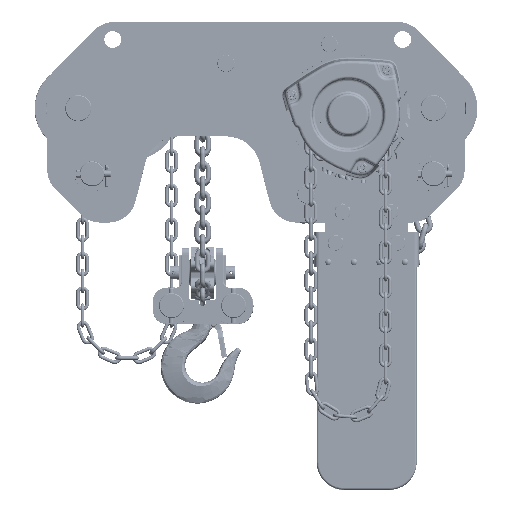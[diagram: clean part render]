
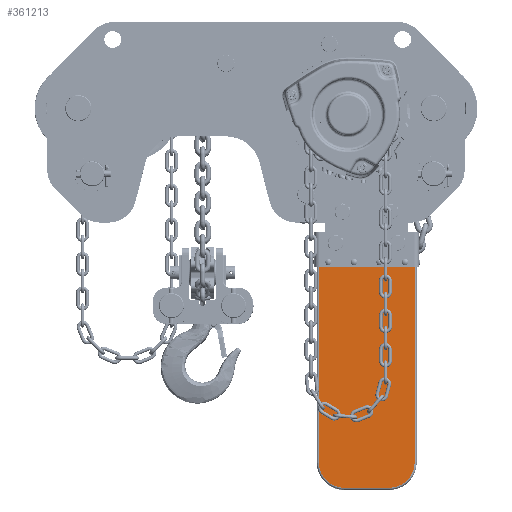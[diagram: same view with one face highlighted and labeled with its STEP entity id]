
A CAD part, top view. The second image highlights one B-rep face of the part: STEP entity #361213.
In plain terms, the highlighted planar face has unit normal (0, 0, 1) as drawn and (-1, 0, 0) by its records, which use the part's own axes.
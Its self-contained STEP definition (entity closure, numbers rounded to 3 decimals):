
#13480 = VERTEX_POINT ( 'NONE', #292649 ) ;
#29026 = ORIENTED_EDGE ( 'NONE', *, *, #163372, .T. ) ;
#50716 = LINE ( 'NONE', #90184, #457541 ) ;
#54205 = LINE ( 'NONE', #228447, #314457 ) ;
#58680 = EDGE_CURVE ( 'NONE', #260573, #13480, #222928, .T. ) ;
#87692 = CARTESIAN_POINT ( 'NONE',  ( -72.5, -340., -72.5 ) ) ;
#90184 = CARTESIAN_POINT ( 'NONE',  ( -72.5, -340., -69.5 ) ) ;
#90417 = DIRECTION ( 'NONE',  ( -1., 0., 0. ) ) ;
#95162 = VECTOR ( 'NONE', #298545, 1000. ) ;
#110874 = DIRECTION ( 'NONE',  ( -1., 0., 0. ) ) ;
#119500 = CARTESIAN_POINT ( 'NONE',  ( -72.5, -337., 32.5 ) ) ;
#121917 = CARTESIAN_POINT ( 'NONE',  ( -72.5, -300., -32.5 ) ) ;
#126989 = LINE ( 'NONE', #171858, #95162 ) ;
#142409 = VECTOR ( 'NONE', #383793, 1000. ) ;
#163372 = EDGE_CURVE ( 'NONE', #197723, #192139, #274275, .T. ) ;
#171858 = CARTESIAN_POINT ( 'NONE',  ( -72.5, -340., 69.5 ) ) ;
#180182 = FACE_OUTER_BOUND ( 'NONE', #359705, .T. ) ;
#183389 = ORIENTED_EDGE ( 'NONE', *, *, #58680, .T. ) ;
#192139 = VERTEX_POINT ( 'NONE', #535766 ) ;
#197723 = VERTEX_POINT ( 'NONE', #423277 ) ;
#200842 = ORIENTED_EDGE ( 'NONE', *, *, #261757, .F. ) ;
#221690 = EDGE_CURVE ( 'NONE', #546910, #260573, #50716, .T. ) ;
#222928 = CIRCLE ( 'NONE', #241071, 37. ) ;
#228447 = CARTESIAN_POINT ( 'NONE',  ( -72.5, 0., -72.5 ) ) ;
#241071 = AXIS2_PLACEMENT_3D ( 'NONE', #121917, #110874, #498975 ) ;
#249488 = ORIENTED_EDGE ( 'NONE', *, *, #221690, .T. ) ;
#249819 = CARTESIAN_POINT ( 'NONE',  ( -72.5, 0., -69.5 ) ) ;
#260573 = VERTEX_POINT ( 'NONE', #361082 ) ;
#261757 = EDGE_CURVE ( 'NONE', #546910, #312284, #54205, .T. ) ;
#269736 = AXIS2_PLACEMENT_3D ( 'NONE', #87692, #90417, #438983 ) ;
#270553 = DIRECTION ( 'NONE',  ( 0., 0., 1. ) ) ;
#274275 = CIRCLE ( 'NONE', #534996, 37. ) ;
#275497 = EDGE_CURVE ( 'NONE', #13480, #197723, #336096, .T. ) ;
#292649 = CARTESIAN_POINT ( 'NONE',  ( -72.5, -337., -32.5 ) ) ;
#298545 = DIRECTION ( 'NONE',  ( 0., 1., 0. ) ) ;
#312284 = VERTEX_POINT ( 'NONE', #487840 ) ;
#314457 = VECTOR ( 'NONE', #270553, 1000. ) ;
#336096 = LINE ( 'NONE', #119500, #142409 ) ;
#340969 = DIRECTION ( 'NONE',  ( 0., 0., 1. ) ) ;
#359705 = EDGE_LOOP ( 'NONE', ( #200842, #249488, #183389, #463182, #29026, #444208 ) ) ;
#361082 = CARTESIAN_POINT ( 'NONE',  ( -72.5, -300., -69.5 ) ) ;
#361213 = ADVANCED_FACE ( 'NONE', ( #180182 ), #473028, .T. ) ;
#383793 = DIRECTION ( 'NONE',  ( 0., 0., 1. ) ) ;
#394147 = DIRECTION ( 'NONE',  ( -1., 0., 0. ) ) ;
#423277 = CARTESIAN_POINT ( 'NONE',  ( -72.5, -337., 32.5 ) ) ;
#438983 = DIRECTION ( 'NONE',  ( 0., 0., 1. ) ) ;
#444208 = ORIENTED_EDGE ( 'NONE', *, *, #454293, .T. ) ;
#454293 = EDGE_CURVE ( 'NONE', #192139, #312284, #126989, .T. ) ;
#457541 = VECTOR ( 'NONE', #525990, 1000. ) ;
#463182 = ORIENTED_EDGE ( 'NONE', *, *, #275497, .T. ) ;
#473028 = PLANE ( 'NONE',  #269736 ) ;
#473166 = CARTESIAN_POINT ( 'NONE',  ( -72.5, -300., 32.5 ) ) ;
#487840 = CARTESIAN_POINT ( 'NONE',  ( -72.5, 0., 69.5 ) ) ;
#498975 = DIRECTION ( 'NONE',  ( 0., 0., 1. ) ) ;
#525990 = DIRECTION ( 'NONE',  ( 0., -1., 0. ) ) ;
#534996 = AXIS2_PLACEMENT_3D ( 'NONE', #473166, #394147, #340969 ) ;
#535766 = CARTESIAN_POINT ( 'NONE',  ( -72.5, -300., 69.5 ) ) ;
#546910 = VERTEX_POINT ( 'NONE', #249819 ) ;
